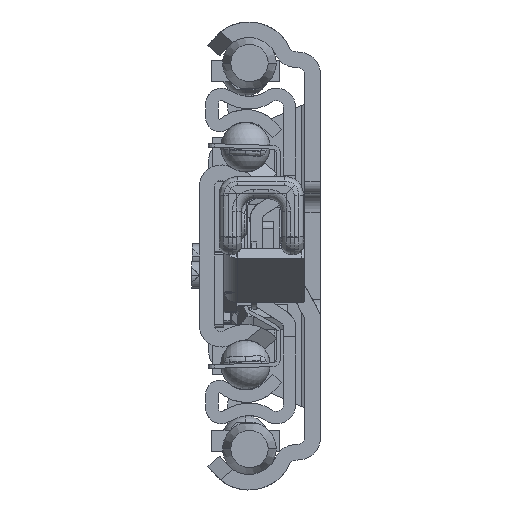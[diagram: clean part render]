
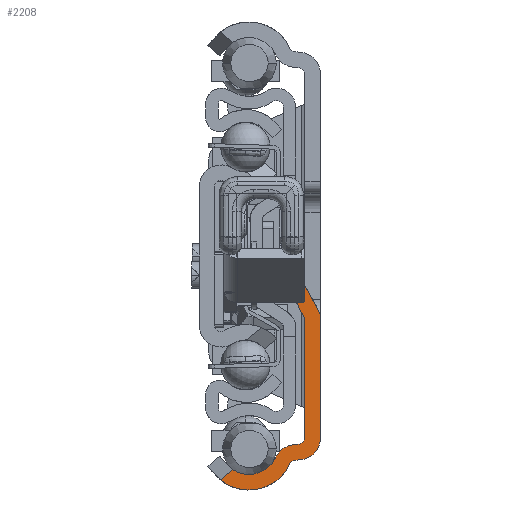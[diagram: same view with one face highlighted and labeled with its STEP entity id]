
A CAD part, left-side view. The second image highlights one B-rep face of the part: STEP entity #2208.
In plain terms, the highlighted planar face has unit normal (-1, 0, 0).
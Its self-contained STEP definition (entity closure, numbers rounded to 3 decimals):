
#45=DIRECTION('',(0.,0.769,-0.639));
#46=VECTOR('',#45,2.575);
#47=CARTESIAN_POINT('',(0.,14.098,-34.377));
#48=LINE('',#47,#46);
#49=CARTESIAN_POINT('',(0.,11.5,-30.4));
#50=DIRECTION('',(-1.,0.,0.));
#51=DIRECTION('',(0.,0.547,-0.837));
#52=AXIS2_PLACEMENT_3D('',#49,#50,#51);
#54=CARTESIAN_POINT('',(0.,4.008,-33.854));
#55=DIRECTION('',(-1.,0.,0.));
#56=DIRECTION('',(0.,0.087,0.996));
#57=AXIS2_PLACEMENT_3D('',#54,#55,#56);
#59=DIRECTION('',(0.,-0.996,0.087));
#60=VECTOR('',#59,0.904);
#61=CARTESIAN_POINT('',(0.,4.313,-30.368));
#62=LINE('',#61,#60);
#63=DIRECTION('',(0.,0.,1.));
#64=VECTOR('',#63,19.293);
#65=CARTESIAN_POINT('',(0.,2.5,-29.293));
#66=LINE('',#65,#64);
#67=DIRECTION('',(0.,-0.477,-0.879));
#68=VECTOR('',#67,6.873);
#69=CARTESIAN_POINT('',(0.,5.775,-3.958));
#70=LINE('',#69,#68);
#71=CARTESIAN_POINT('',(0.,0.5,-1.099));
#72=DIRECTION('',(-1.,0.,0.));
#73=DIRECTION('',(0.,0.946,-0.324));
#74=AXIS2_PLACEMENT_3D('',#71,#72,#73);
#76=DIRECTION('',(0.,1.,0.));
#77=VECTOR('',#76,2.78);
#78=CARTESIAN_POINT('',(0.,3.397,-3.04));
#79=LINE('',#78,#77);
#80=CARTESIAN_POINT('',(0.,2.5,-9.942));
#81=DIRECTION('',(-1.,0.,0.));
#82=DIRECTION('',(0.,-1.,0.));
#83=AXIS2_PLACEMENT_3D('',#80,#81,#82);
#85=CARTESIAN_POINT('',(0.,3.5,-29.293));
#86=DIRECTION('',(-1.,0.,0.));
#87=DIRECTION('',(0.,-0.087,-0.996));
#88=AXIS2_PLACEMENT_3D('',#85,#86,#87);
#90=DIRECTION('',(0.,0.996,-0.087));
#91=VECTOR('',#90,0.904);
#92=CARTESIAN_POINT('',(0.,3.195,-32.78));
#93=LINE('',#92,#91);
#94=CARTESIAN_POINT('',(0.,11.5,-30.4));
#95=DIRECTION('',(1.,0.,0.));
#96=DIRECTION('',(0.,-0.908,-0.419));
#97=AXIS2_PLACEMENT_3D('',#94,#95,#96);
#555=DIRECTION('',(0.,0.,1.));
#556=VECTOR('',#555,19.351);
#557=CARTESIAN_POINT('',(0.,0.,-29.293));
#558=LINE('',#557,#556);
#946=CARTESIAN_POINT('',(0.,16.079,
-36.021));
#1001=CARTESIAN_POINT('',(0.,14.098,
-34.377));
#1291=CARTESIAN_POINT('',(0.,3.5,-29.293));
#1292=DIRECTION('',(1.,0.,0.));
#1293=DIRECTION('',(0.,-1.,0.));
#1294=AXIS2_PLACEMENT_3D('',#1291,#1292,#1293);
#1301=CARTESIAN_POINT('',(0.,4.008,-33.854));
#1302=DIRECTION('',(1.,0.,0.));
#1303=DIRECTION('',(0.,0.908,0.419));
#1304=AXIS2_PLACEMENT_3D('',#1301,#1302,#1303);
#1364=DIRECTION('',(0.,0.477,0.879));
#1365=VECTOR('',#1364,6.495);
#1366=CARTESIAN_POINT('',(0.,0.302,-8.751));
#1367=LINE('',#1366,#1365);
#1371=CARTESIAN_POINT('',(0.,3.397,-3.04));
#1381=CARTESIAN_POINT('',(0.,6.177,-3.04));
#1665=CARTESIAN_POINT('',(0.,2.5,-29.293));
#1666=CARTESIAN_POINT('',(0.,3.413,-30.289));
#1667=VERTEX_POINT('',#1665);
#1668=VERTEX_POINT('',#1666);
#1677=CARTESIAN_POINT('',(0.,4.916,-33.436));
#1678=CARTESIAN_POINT('',(0.,4.095,-32.858));
#1679=VERTEX_POINT('',#1677);
#1680=VERTEX_POINT('',#1678);
#1681=CARTESIAN_POINT('',(0.,4.313,-30.368));
#1682=CARTESIAN_POINT('',(0.,7.186,-32.389));
#1683=VERTEX_POINT('',#1681);
#1684=VERTEX_POINT('',#1682);
#1693=CARTESIAN_POINT('',(0.,3.195,-32.78));
#1694=CARTESIAN_POINT('',(0.,0.,-29.293));
#1695=VERTEX_POINT('',#1693);
#1696=VERTEX_POINT('',#1694);
#2075=VERTEX_POINT('',#946);
#2083=VERTEX_POINT('',#1001);
#2084=CARTESIAN_POINT('',(0.,2.5,-10.));
#2085=VERTEX_POINT('',#2084);
#2124=VERTEX_POINT('',#1371);
#2126=CARTESIAN_POINT('',(0.,0.,-9.942));
#2127=VERTEX_POINT('',#2126);
#2128=CARTESIAN_POINT('',(0.,0.302,-8.751));
#2129=VERTEX_POINT('',#2128);
#2134=VERTEX_POINT('',#1381);
#2135=CARTESIAN_POINT('',(0.,5.775,-3.958));
#2136=VERTEX_POINT('',#2135);
#2169=CARTESIAN_POINT('',(0.,0.,0.));
#2170=DIRECTION('',(1.,0.,0.));
#2171=DIRECTION('',(0.,-1.,0.));
#2172=AXIS2_PLACEMENT_3D('',#2169,#2170,#2171);
#2173=PLANE('',#2172);
#2175=ORIENTED_EDGE('',*,*,#2174,.F.);
#2177=ORIENTED_EDGE('',*,*,#2176,.T.);
#2179=ORIENTED_EDGE('',*,*,#2178,.F.);
#2181=ORIENTED_EDGE('',*,*,#2180,.T.);
#2183=ORIENTED_EDGE('',*,*,#2182,.F.);
#2185=ORIENTED_EDGE('',*,*,#2184,.T.);
#2187=ORIENTED_EDGE('',*,*,#2186,.F.);
#2189=ORIENTED_EDGE('',*,*,#2188,.F.);
#2191=ORIENTED_EDGE('',*,*,#2190,.F.);
#2193=ORIENTED_EDGE('',*,*,#2192,.F.);
#2195=ORIENTED_EDGE('',*,*,#2194,.F.);
#2197=ORIENTED_EDGE('',*,*,#2196,.F.);
#2199=ORIENTED_EDGE('',*,*,#2198,.F.);
#2201=ORIENTED_EDGE('',*,*,#2200,.T.);
#2203=ORIENTED_EDGE('',*,*,#2202,.F.);
#2205=ORIENTED_EDGE('',*,*,#2204,.T.);
#2206=EDGE_LOOP('',(#2175,#2177,#2179,#2181,#2183,#2185,#2187,#2189,#2191,#2193,
#2195,#2197,#2199,#2201,#2203,#2205));
#2207=FACE_OUTER_BOUND('',#2206,.F.);
#53=CIRCLE('',#52,4.75);
#58=CIRCLE('',#57,3.5);
#75=CIRCLE('',#74,6.);
#84=CIRCLE('',#83,2.5);
#89=CIRCLE('',#88,3.5);
#98=CIRCLE('',#97,7.25);
#1295=CIRCLE('',#1294,1.);
#1305=CIRCLE('',#1304,1.);
#2174=EDGE_CURVE('',#2083,#2075,#48,.T.);
#2176=EDGE_CURVE('',#2083,#1684,#53,.T.);
#2178=EDGE_CURVE('',#1683,#1684,#58,.T.);
#2180=EDGE_CURVE('',#1683,#1668,#62,.T.);
#2182=EDGE_CURVE('',#1667,#1668,#1295,.T.);
#2184=EDGE_CURVE('',#1667,#2085,#66,.T.);
#2186=EDGE_CURVE('',#2136,#2085,#70,.T.);
#2188=EDGE_CURVE('',#2134,#2136,#75,.T.);
#2190=EDGE_CURVE('',#2124,#2134,#79,.T.);
#2192=EDGE_CURVE('',#2129,#2124,#1367,.T.);
#2194=EDGE_CURVE('',#2127,#2129,#84,.T.);
#2196=EDGE_CURVE('',#1696,#2127,#558,.T.);
#2198=EDGE_CURVE('',#1695,#1696,#89,.T.);
#2200=EDGE_CURVE('',#1695,#1680,#93,.T.);
#2202=EDGE_CURVE('',#1679,#1680,#1305,.T.);
#2204=EDGE_CURVE('',#1679,#2075,#98,.T.);
#2208=ADVANCED_FACE('',(#2207),#2173,.F.);
